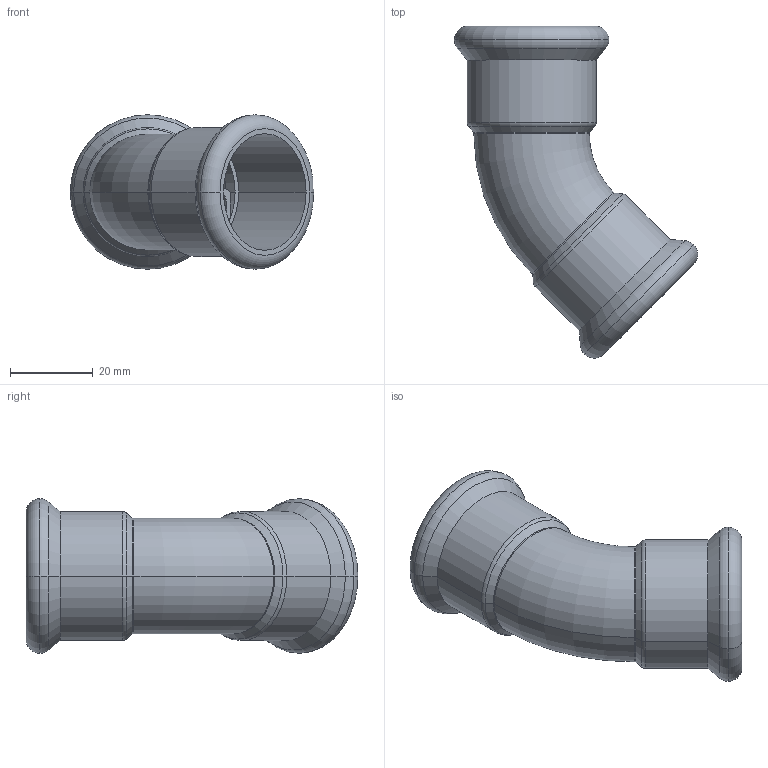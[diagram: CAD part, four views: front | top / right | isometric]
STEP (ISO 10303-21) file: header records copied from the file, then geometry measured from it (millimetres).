
FILE_DESCRIPTION(('OneSpaceDesigner STEP Export'),'2;1');
FILE_NAME('R2713 28x28.stp','2010-06-10T 8:27:35',(''),(''),'OneSpace Designer STEP processor for AP214 (Solid Model)','OneSpace Modeling 15.00A 14-Mar-2007 (C) CoCreate Software GmbH','');
FILE_SCHEMA(('AUTOMOTIVE_DESIGN { 1 0 10303 214 1 1 1 1 }'));
Length unit declared in the file: millimetre
Products named in the file (2): R2713_28x28
Assembly tree (1 placements, depth 2):
  R2713_28x28
    R2713_28x28
Bounding box: 58.99 x 80.47 x 37.45 mm (x, y, z)
Volume: 14571.6 mm3; surface area: 17190.7 mm2
Topology: 1 solids, 1 shells, 122 faces, 301 edges, 191 vertices
Faces by surface type: plane 60, cylinder 38, torus 16, cone 8
Entity records: 3264 total; most frequent: ORIENTED_EDGE 602, CARTESIAN_POINT 531, DIRECTION 502, EDGE_CURVE 301, VERTEX_POINT 191, VECTOR 178, LINE 178, AXIS2_PLACEMENT_3D 162
